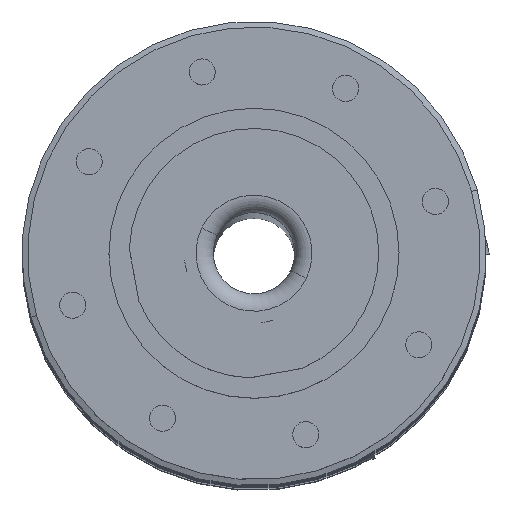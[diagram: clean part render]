
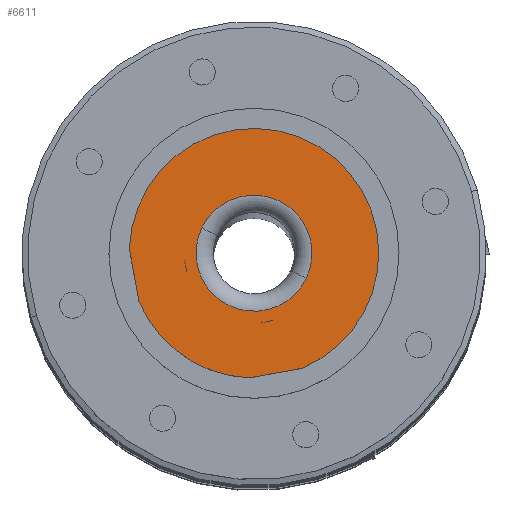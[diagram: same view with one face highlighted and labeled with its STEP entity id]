
A CAD part, top view. The second image highlights one B-rep face of the part: STEP entity #6611.
In plain terms, the highlighted planar face has unit normal (0, 0, 1).
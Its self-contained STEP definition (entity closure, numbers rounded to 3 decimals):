
#24 = DIRECTION ( 'NONE',  ( 0.984, 0.18, 0. ) ) ;
#102 = ORIENTED_EDGE ( 'NONE', *, *, #3994, .F. ) ;
#526 = ORIENTED_EDGE ( 'NONE', *, *, #6423, .T. ) ;
#699 = CARTESIAN_POINT ( 'NONE',  ( 550., 0., 728.7 ) ) ;
#745 = VERTEX_POINT ( 'NONE', #10271 ) ;
#1050 = VECTOR ( 'NONE', #2870, 1000. ) ;
#1198 = LINE ( 'NONE', #8904, #1050 ) ;
#1206 = AXIS2_PLACEMENT_3D ( 'NONE', #10873, #4582, #8049 ) ;
#1417 = DIRECTION ( 'NONE',  ( 0., 0., -1. ) ) ;
#1679 = AXIS2_PLACEMENT_3D ( 'NONE', #4187, #1417, #5892 ) ;
#1814 = DIRECTION ( 'NONE',  ( 0.984, 0.18, 0. ) ) ;
#1905 = CARTESIAN_POINT ( 'NONE',  ( 571.147, 3.879, 728.7 ) ) ;
#2300 = EDGE_CURVE ( 'NONE', #10843, #6047, #11022, .T. ) ;
#2676 = PLANE ( 'NONE',  #3205 ) ;
#2773 = CARTESIAN_POINT ( 'NONE',  ( 550., 0., 728.7 ) ) ;
#2774 = DIRECTION ( 'NONE',  ( -0.984, -0.18, 0. ) ) ;
#2870 = DIRECTION ( 'NONE',  ( -0.18, 0.984, 0. ) ) ;
#3099 = VECTOR ( 'NONE', #2774, 1000. ) ;
#3205 = AXIS2_PLACEMENT_3D ( 'NONE', #7903, #5364, #24 ) ;
#3725 = AXIS2_PLACEMENT_3D ( 'NONE', #2773, #10640, #1814 ) ;
#3994 = EDGE_CURVE ( 'NONE', #5529, #10559, #1198, .T. ) ;
#4152 = DIRECTION ( 'NONE',  ( 0., 0., -1. ) ) ;
#4187 = CARTESIAN_POINT ( 'NONE',  ( 550., 0., 728.7 ) ) ;
#4328 = LINE ( 'NONE', #8041, #3099 ) ;
#4437 = VERTEX_POINT ( 'NONE', #5059 ) ;
#4582 = DIRECTION ( 'NONE',  ( 0., 0., -1. ) ) ;
#4629 = EDGE_CURVE ( 'NONE', #9926, #745, #11092, .T. ) ;
#5059 = CARTESIAN_POINT ( 'NONE',  ( 549.255, -21.487, 728.7 ) ) ;
#5080 = DIRECTION ( 'NONE',  ( 0.984, 0.18, 0. ) ) ;
#5092 = EDGE_CURVE ( 'NONE', #6047, #4437, #4328, .T. ) ;
#5159 = AXIS2_PLACEMENT_3D ( 'NONE', #699, #4152, #5080 ) ;
#5287 = CARTESIAN_POINT ( 'NONE',  ( 540.981, 4.318, 728.7 ) ) ;
#5364 = DIRECTION ( 'NONE',  ( 0., 0., -1. ) ) ;
#5426 = ORIENTED_EDGE ( 'NONE', *, *, #7213, .F. ) ;
#5529 = VERTEX_POINT ( 'NONE', #8700 ) ;
#5892 = DIRECTION ( 'NONE',  ( 0.984, 0.18, 0. ) ) ;
#5953 = FACE_BOUND ( 'NONE', #8658, .T. ) ;
#6047 = VERTEX_POINT ( 'NONE', #7030 ) ;
#6083 = FACE_OUTER_BOUND ( 'NONE', #8723, .T. ) ;
#6423 = EDGE_CURVE ( 'NONE', #745, #9926, #11318, .T. ) ;
#6519 = ORIENTED_EDGE ( 'NONE', *, *, #9149, .F. ) ;
#6611 = ADVANCED_FACE ( 'NONE', ( #6083, #5953 ), #2676, .F. ) ;
#6625 = CIRCLE ( 'NONE', #3725, 21.5 ) ;
#6940 = DIRECTION ( 'NONE',  ( 0.902, -0.432, 0. ) ) ;
#7030 = CARTESIAN_POINT ( 'NONE',  ( 558.323, -19.824, 728.7 ) ) ;
#7182 = AXIS2_PLACEMENT_3D ( 'NONE', #11264, #9405, #6940 ) ;
#7213 = EDGE_CURVE ( 'NONE', #4437, #5529, #6625, .T. ) ;
#7601 = CARTESIAN_POINT ( 'NONE',  ( 528.513, 0.745, 728.7 ) ) ;
#7865 = ORIENTED_EDGE ( 'NONE', *, *, #2300, .F. ) ;
#7903 = CARTESIAN_POINT ( 'NONE',  ( 546.121, 21.147, 728.7 ) ) ;
#8041 = CARTESIAN_POINT ( 'NONE',  ( 549.255, -21.487, 728.7 ) ) ;
#8049 = DIRECTION ( 'NONE',  ( 0.902, -0.432, 0. ) ) ;
#8346 = ORIENTED_EDGE ( 'NONE', *, *, #5092, .F. ) ;
#8658 = EDGE_LOOP ( 'NONE', ( #526, #10635 ) ) ;
#8700 = CARTESIAN_POINT ( 'NONE',  ( 530.176, -8.323, 728.7 ) ) ;
#8723 = EDGE_LOOP ( 'NONE', ( #5426, #8346, #7865, #6519, #102 ) ) ;
#8904 = CARTESIAN_POINT ( 'NONE',  ( 528.513, 0.745, 728.7 ) ) ;
#9149 = EDGE_CURVE ( 'NONE', #10559, #10843, #9441, .T. ) ;
#9405 = DIRECTION ( 'NONE',  ( 0., 0., -1. ) ) ;
#9441 = CIRCLE ( 'NONE', #1679, 21.5 ) ;
#9926 = VERTEX_POINT ( 'NONE', #5287 ) ;
#10271 = CARTESIAN_POINT ( 'NONE',  ( 559.019, -4.318, 728.7 ) ) ;
#10559 = VERTEX_POINT ( 'NONE', #7601 ) ;
#10635 = ORIENTED_EDGE ( 'NONE', *, *, #4629, .T. ) ;
#10640 = DIRECTION ( 'NONE',  ( 0., 0., -1. ) ) ;
#10843 = VERTEX_POINT ( 'NONE', #1905 ) ;
#10873 = CARTESIAN_POINT ( 'NONE',  ( 550., 0., 728.7 ) ) ;
#11022 = CIRCLE ( 'NONE', #5159, 21.5 ) ;
#11092 = CIRCLE ( 'NONE', #1206, 10. ) ;
#11264 = CARTESIAN_POINT ( 'NONE',  ( 550., 0., 728.7 ) ) ;
#11318 = CIRCLE ( 'NONE', #7182, 10. ) ;
